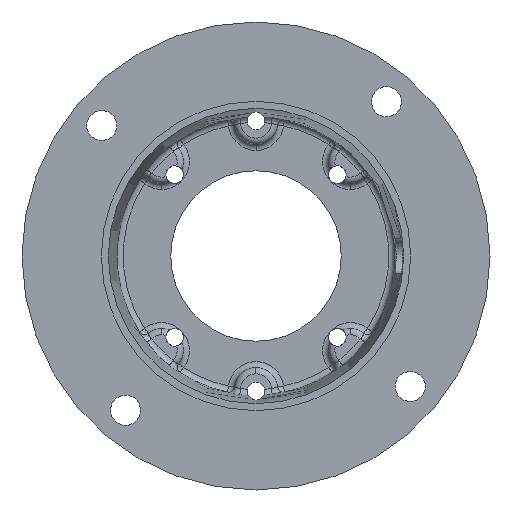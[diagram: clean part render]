
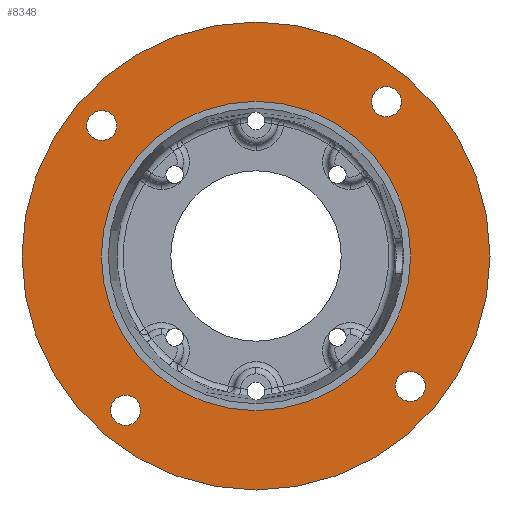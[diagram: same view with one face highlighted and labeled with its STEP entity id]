
A CAD part, front view. The second image highlights one B-rep face of the part: STEP entity #8348.
In plain terms, the highlighted planar face has unit normal (0, -1, 0).
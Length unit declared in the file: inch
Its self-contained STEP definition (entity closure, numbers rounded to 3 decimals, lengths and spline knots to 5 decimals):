
#24 = ORIENTED_EDGE ( 'NONE', *, *, #1786, .F. ) ;
#94 = CARTESIAN_POINT ( 'NONE',  ( 1.89861, 0.103, 2.24475 ) ) ;
#136 = DIRECTION ( 'NONE',  ( 0., 0., -1. ) ) ;
#448 = DIRECTION ( 'NONE',  ( 0., 0., -1. ) ) ;
#461 = DIRECTION ( 'NONE',  ( 0., 0., -1. ) ) ;
#570 = FACE_BOUND ( 'NONE', #8287, .T. ) ;
#648 = ORIENTED_EDGE ( 'NONE', *, *, #5536, .F. ) ;
#750 = DIRECTION ( 'NONE',  ( 0., 0., -1. ) ) ;
#791 = VERTEX_POINT ( 'NONE', #6119 ) ;
#814 = CARTESIAN_POINT ( 'NONE',  ( -1.89861, 0.103, -2.24475 ) ) ;
#837 = EDGE_CURVE ( 'NONE', #791, #5591, #5496, .T. ) ;
#903 = AXIS2_PLACEMENT_3D ( 'NONE', #2661, #7237, #3309 ) ;
#993 = DIRECTION ( 'NONE',  ( 0., -1., 0. ) ) ;
#1197 = DIRECTION ( 'NONE',  ( 0., -1., 0. ) ) ;
#1226 = CIRCLE ( 'NONE', #7399, 0.21875 ) ;
#1341 = CARTESIAN_POINT ( 'NONE',  ( 2.24475, 0.103, -2.11736 ) ) ;
#1379 = EDGE_LOOP ( 'NONE', ( #3641, #6646 ) ) ;
#1409 = CARTESIAN_POINT ( 'NONE',  ( -2.24475, 0.103, 1.67986 ) ) ;
#1452 = EDGE_CURVE ( 'NONE', #3214, #5262, #8053, .T. ) ;
#1471 = EDGE_LOOP ( 'NONE', ( #24, #3025 ) ) ;
#1472 = DIRECTION ( 'NONE',  ( 0., 0., -1. ) ) ;
#1786 = EDGE_CURVE ( 'NONE', #8279, #3595, #4870, .T. ) ;
#2067 = VERTEX_POINT ( 'NONE', #1409 ) ;
#2119 = FACE_OUTER_BOUND ( 'NONE', #1379, .T. ) ;
#2151 = EDGE_CURVE ( 'NONE', #6402, #6756, #5192, .T. ) ;
#2251 = EDGE_CURVE ( 'NONE', #2067, #6602, #5170, .T. ) ;
#2314 = CIRCLE ( 'NONE', #2890, 0.21875 ) ;
#2397 = CIRCLE ( 'NONE', #8311, 3.405 ) ;
#2406 = AXIS2_PLACEMENT_3D ( 'NONE', #8265, #4349, #448 ) ;
#2602 = ORIENTED_EDGE ( 'NONE', *, *, #2151, .F. ) ;
#2610 = CARTESIAN_POINT ( 'NONE',  ( 0., 0.103, 0. ) ) ;
#2661 = CARTESIAN_POINT ( 'NONE',  ( 0., 0.103, 0. ) ) ;
#2793 = EDGE_CURVE ( 'NONE', #6602, #2067, #7935, .T. ) ;
#2890 = AXIS2_PLACEMENT_3D ( 'NONE', #5104, #1197, #5760 ) ;
#2961 = CARTESIAN_POINT ( 'NONE',  ( -1.89861, 0.103, -2.026 ) ) ;
#3008 = EDGE_LOOP ( 'NONE', ( #7850, #3614 ) ) ;
#3025 = ORIENTED_EDGE ( 'NONE', *, *, #5280, .F. ) ;
#3214 = VERTEX_POINT ( 'NONE', #7125 ) ;
#3251 = EDGE_CURVE ( 'NONE', #5591, #791, #2397, .T. ) ;
#3261 = DIRECTION ( 'NONE',  ( 0., 0., -1. ) ) ;
#3275 = AXIS2_PLACEMENT_3D ( 'NONE', #3431, #8009, #4102 ) ;
#3309 = DIRECTION ( 'NONE',  ( 0., 0., -1. ) ) ;
#3323 = VERTEX_POINT ( 'NONE', #1341 ) ;
#3326 = DIRECTION ( 'NONE',  ( 0., -1., 0. ) ) ;
#3412 = CARTESIAN_POINT ( 'NONE',  ( -2.24475, 0.103, 2.11736 ) ) ;
#3431 = CARTESIAN_POINT ( 'NONE',  ( -2.24475, 0.103, 1.89861 ) ) ;
#3437 = CARTESIAN_POINT ( 'NONE',  ( -1.89861, 0.103, -2.24475 ) ) ;
#3595 = VERTEX_POINT ( 'NONE', #2961 ) ;
#3610 = CARTESIAN_POINT ( 'NONE',  ( -2.24475, 0.103, 1.89861 ) ) ;
#3614 = ORIENTED_EDGE ( 'NONE', *, *, #7475, .F. ) ;
#3641 = ORIENTED_EDGE ( 'NONE', *, *, #3251, .T. ) ;
#3837 = FACE_BOUND ( 'NONE', #3008, .T. ) ;
#4042 = DIRECTION ( 'NONE',  ( 0., -1., 0. ) ) ;
#4102 = DIRECTION ( 'NONE',  ( 0., 0., -1. ) ) ;
#4111 = DIRECTION ( 'NONE',  ( 0., 0., -1. ) ) ;
#4220 = AXIS2_PLACEMENT_3D ( 'NONE', #814, #5372, #1472 ) ;
#4266 = CARTESIAN_POINT ( 'NONE',  ( 1.89861, 0.103, 2.4635 ) ) ;
#4275 = DIRECTION ( 'NONE',  ( 0., 0., -1. ) ) ;
#4349 = DIRECTION ( 'NONE',  ( 0., -1., 0. ) ) ;
#4358 = DIRECTION ( 'NONE',  ( 0., -1., 0. ) ) ;
#4646 = DIRECTION ( 'NONE',  ( 0., -1., 0. ) ) ;
#4854 = EDGE_LOOP ( 'NONE', ( #8416, #7521 ) ) ;
#4870 = CIRCLE ( 'NONE', #4220, 0.21875 ) ;
#5104 = CARTESIAN_POINT ( 'NONE',  ( 1.89861, 0.103, 2.24475 ) ) ;
#5138 = AXIS2_PLACEMENT_3D ( 'NONE', #3610, #8183, #4275 ) ;
#5147 = AXIS2_PLACEMENT_3D ( 'NONE', #7951, #4042, #136 ) ;
#5170 = CIRCLE ( 'NONE', #3275, 0.21875 ) ;
#5192 = CIRCLE ( 'NONE', #7821, 0.21875 ) ;
#5262 = VERTEX_POINT ( 'NONE', #5368 ) ;
#5280 = EDGE_CURVE ( 'NONE', #3595, #8279, #1226, .T. ) ;
#5368 = CARTESIAN_POINT ( 'NONE',  ( 0., 0.103, -2.2505 ) ) ;
#5372 = DIRECTION ( 'NONE',  ( 0., -1., 0. ) ) ;
#5496 = CIRCLE ( 'NONE', #7512, 3.405 ) ;
#5536 = EDGE_CURVE ( 'NONE', #5262, #3214, #7369, .T. ) ;
#5563 = FACE_BOUND ( 'NONE', #7175, .T. ) ;
#5591 = VERTEX_POINT ( 'NONE', #8347 ) ;
#5621 = CARTESIAN_POINT ( 'NONE',  ( 0., 0.103, 0. ) ) ;
#5760 = DIRECTION ( 'NONE',  ( 0., 0., -1. ) ) ;
#5779 = FACE_BOUND ( 'NONE', #4854, .T. ) ;
#5874 = AXIS2_PLACEMENT_3D ( 'NONE', #5621, #993, #6258 ) ;
#5888 = ORIENTED_EDGE ( 'NONE', *, *, #6861, .F. ) ;
#6037 = EDGE_CURVE ( 'NONE', #3323, #6304, #6634, .T. ) ;
#6119 = CARTESIAN_POINT ( 'NONE',  ( 0., 0.103, 3.405 ) ) ;
#6258 = DIRECTION ( 'NONE',  ( 0., 0., -1. ) ) ;
#6304 = VERTEX_POINT ( 'NONE', #7591 ) ;
#6388 = CIRCLE ( 'NONE', #8268, 0.21875 ) ;
#6402 = VERTEX_POINT ( 'NONE', #7103 ) ;
#6602 = VERTEX_POINT ( 'NONE', #3412 ) ;
#6634 = CIRCLE ( 'NONE', #5147, 0.21875 ) ;
#6646 = ORIENTED_EDGE ( 'NONE', *, *, #837, .T. ) ;
#6756 = VERTEX_POINT ( 'NONE', #4266 ) ;
#6861 = EDGE_CURVE ( 'NONE', #6756, #6402, #2314, .T. ) ;
#7103 = CARTESIAN_POINT ( 'NONE',  ( 1.89861, 0.103, 2.026 ) ) ;
#7125 = CARTESIAN_POINT ( 'NONE',  ( 0., 0.103, 2.2505 ) ) ;
#7175 = EDGE_LOOP ( 'NONE', ( #2602, #5888 ) ) ;
#7189 = ORIENTED_EDGE ( 'NONE', *, *, #1452, .F. ) ;
#7196 = DIRECTION ( 'NONE',  ( 0., -1., 0. ) ) ;
#7237 = DIRECTION ( 'NONE',  ( 0., -1., 0. ) ) ;
#7256 = CARTESIAN_POINT ( 'NONE',  ( 2.24475, 0.103, -1.89861 ) ) ;
#7326 = FACE_BOUND ( 'NONE', #1471, .T. ) ;
#7369 = CIRCLE ( 'NONE', #2406, 2.2505 ) ;
#7399 = AXIS2_PLACEMENT_3D ( 'NONE', #3437, #8014, #4111 ) ;
#7475 = EDGE_CURVE ( 'NONE', #6304, #3323, #6388, .T. ) ;
#7512 = AXIS2_PLACEMENT_3D ( 'NONE', #8277, #4358, #461 ) ;
#7521 = ORIENTED_EDGE ( 'NONE', *, *, #2793, .F. ) ;
#7569 = PLANE ( 'NONE',  #5874 ) ;
#7591 = CARTESIAN_POINT ( 'NONE',  ( 2.24475, 0.103, -1.67986 ) ) ;
#7821 = AXIS2_PLACEMENT_3D ( 'NONE', #94, #4646, #750 ) ;
#7850 = ORIENTED_EDGE ( 'NONE', *, *, #6037, .F. ) ;
#7906 = DIRECTION ( 'NONE',  ( 0., 0., -1. ) ) ;
#7935 = CIRCLE ( 'NONE', #5138, 0.21875 ) ;
#7951 = CARTESIAN_POINT ( 'NONE',  ( 2.24475, 0.103, -1.89861 ) ) ;
#8009 = DIRECTION ( 'NONE',  ( 0., -1., 0. ) ) ;
#8014 = DIRECTION ( 'NONE',  ( 0., -1., 0. ) ) ;
#8053 = CIRCLE ( 'NONE', #903, 2.2505 ) ;
#8103 = CARTESIAN_POINT ( 'NONE',  ( -1.89861, 0.103, -2.4635 ) ) ;
#8183 = DIRECTION ( 'NONE',  ( 0., -1., 0. ) ) ;
#8265 = CARTESIAN_POINT ( 'NONE',  ( 0., 0.103, 0. ) ) ;
#8268 = AXIS2_PLACEMENT_3D ( 'NONE', #7256, #3326, #7906 ) ;
#8277 = CARTESIAN_POINT ( 'NONE',  ( 0., 0.103, 0. ) ) ;
#8279 = VERTEX_POINT ( 'NONE', #8103 ) ;
#8287 = EDGE_LOOP ( 'NONE', ( #648, #7189 ) ) ;
#8311 = AXIS2_PLACEMENT_3D ( 'NONE', #2610, #7196, #3261 ) ;
#8347 = CARTESIAN_POINT ( 'NONE',  ( 0., 0.103, -3.405 ) ) ;
#8348 = ADVANCED_FACE ( 'NONE', ( #5563, #5779, #3837, #7326, #570, #2119 ), #7569, .T. ) ;
#8416 = ORIENTED_EDGE ( 'NONE', *, *, #2251, .F. ) ;
